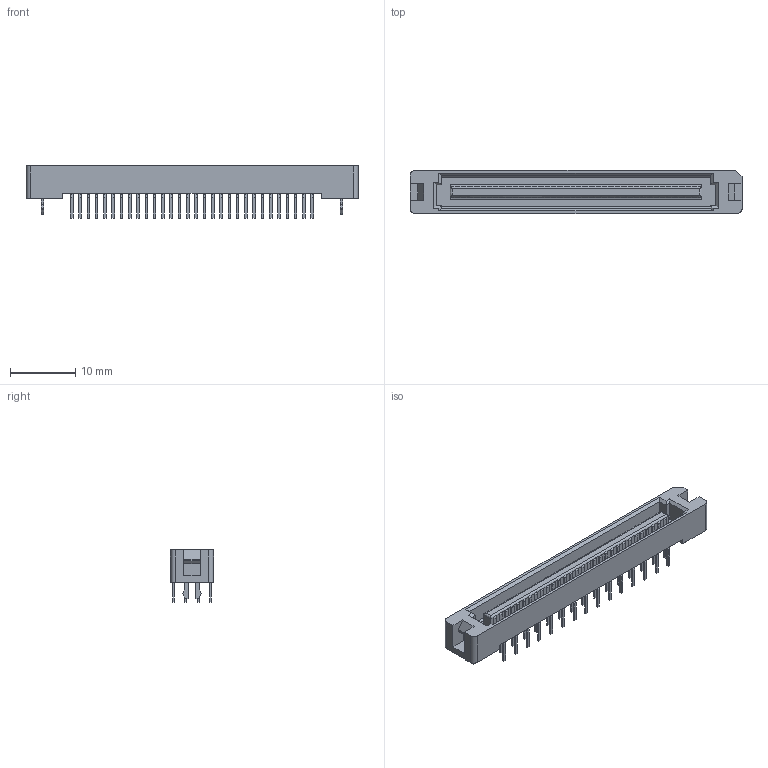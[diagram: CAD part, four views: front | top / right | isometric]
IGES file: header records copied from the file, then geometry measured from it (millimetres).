
Start section: Elysium IGES Interface
Global section: file name: 60HF:\図面登録\3DCAD\89XX\web用図面\4-IGES\8931E-060-178S-F.igs; native system: CoCreate Modeling 17.0B  09-Oct-2010; preprocessor: CoCreate IGES_3D V2.2; author: Unknown; organization: Unknown; date: 20170905.191442; units: millimetre
Bounding box: 50.83 x 6.6 x 8 mm (x, y, z)
Volume: 922.4 mm3; surface area: 2184.5 mm2
Topology: 1 solids, 1 shells, 1184 faces, 3332 edges, 2216 vertices
Faces by surface type: bspline 1184
